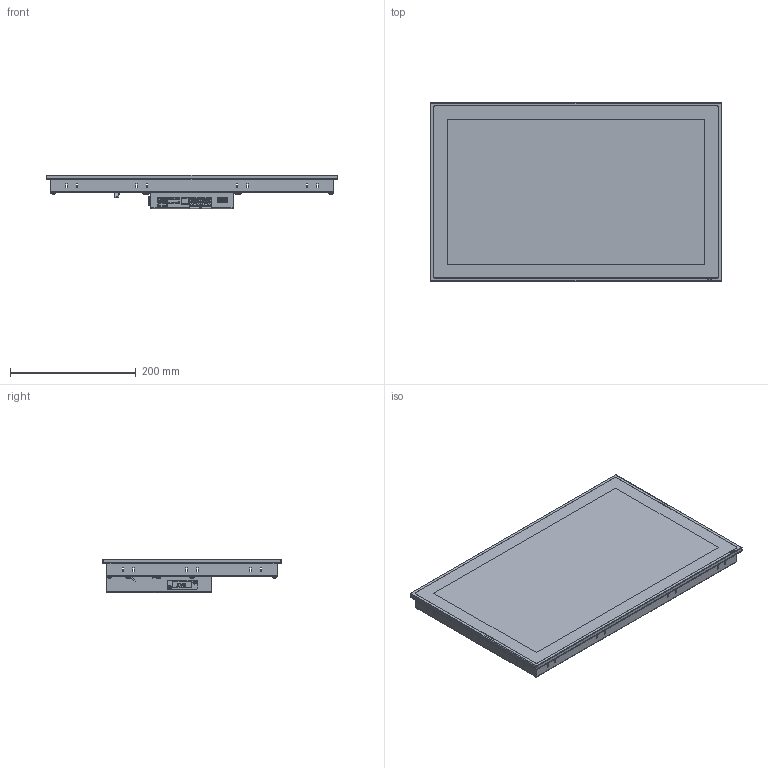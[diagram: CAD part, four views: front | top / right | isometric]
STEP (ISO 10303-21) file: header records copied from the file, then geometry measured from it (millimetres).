
FILE_DESCRIPTION (( 'STEP AP214' ), '1' );
FILE_NAME ('ETT1834 (01-230-1834) 20190408.STEP', '2019-04-08T14:26:43', ( 'Windows-Benutzer' ), ( '' ), 'SwSTEP 2.0', 'SolidWorks 2018', '' );
FILE_SCHEMA (( 'AUTOMOTIVE_DESIGN' ));
Length unit declared in the file: millimetre
Products named in the file (1): ETT1834 (01-230-1834) 20190408
Bounding box: 464 x 285 x 54 mm (x, y, z)
Surface area: 949261.8 mm2 (no closed solid volume)
Topology: 0 solids, 88 shells, 6880 faces, 18072 edges, 11520 vertices
Faces by surface type: plane 4245, cylinder 1753, cone 394, bspline 373, torus 87, sphere 28
Full cylindrical faces by diameter (mm): 0.2 x1, 0.9 x1
Entity records: 301224 total; most frequent: CARTESIAN_POINT 55542, ORIENTED_EDGE 36050, DIRECTION 33572, EDGE_CURVE 18030, VECTOR 12868, LINE 12868, VERTEX_POINT 11520, AXIS2_PLACEMENT_3D 10352
